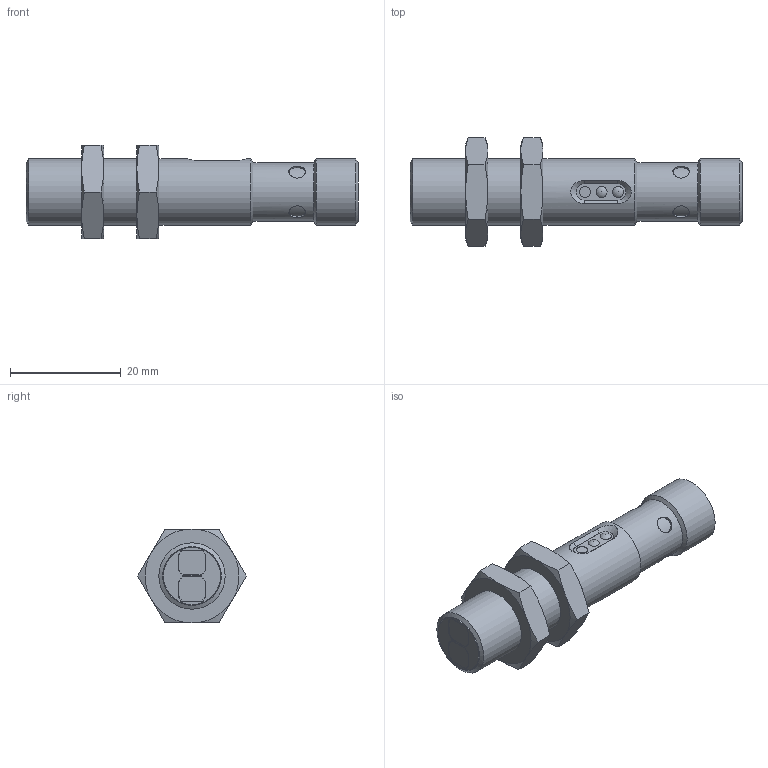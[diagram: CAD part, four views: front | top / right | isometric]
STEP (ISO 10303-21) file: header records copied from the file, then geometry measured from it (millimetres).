
FILE_DESCRIPTION(/* description */ (''),/* implementation_level */ '2;1');
FILE_NAME(/* name */ 'C:\#Vault-WorkDir\Konstruktions-Dokumente\Projekte\Handelsware\F12\153-00250_FR 12 R-..L4 Stecker.stp',/* time_stamp */ '2020-04-28T08:57:51+02:00',/* author */ ('SensoPart'),/* organization */ ('SensoPart'),/* preprocessor_version */ 'ST-DEVELOPER v17',/* originating_system */ 'Autodesk Inventor 2018',/* authorisation */ '');
FILE_SCHEMA (('AUTOMOTIVE_DESIGN { 1 0 10303 214 3 1 1 }'));
Length unit declared in the file: millimetre
Products named in the file (1): GH-ENG-0032210
Bounding box: 60.05 x 19.63 x 17 mm (x, y, z)
Volume: 7046.8 mm3; surface area: 3528.3 mm2
Topology: 1 solids, 1 shells, 144 faces, 378 edges, 249 vertices
Faces by surface type: plane 63, cylinder 41, cone 33, sphere 7
Full cylindrical faces by diameter (mm): 1 x4, 2 x1, 2.4 x1, 3 x4, 8.5 x1, 10.3 x1, 10.55 x1, 12 x4
Entity records: 4698 total; most frequent: CARTESIAN_POINT 1183, ORIENTED_EDGE 740, DIRECTION 731, EDGE_CURVE 370, AXIS2_PLACEMENT_3D 283, VERTEX_POINT 249, EDGE_LOOP 165, LINE 165
